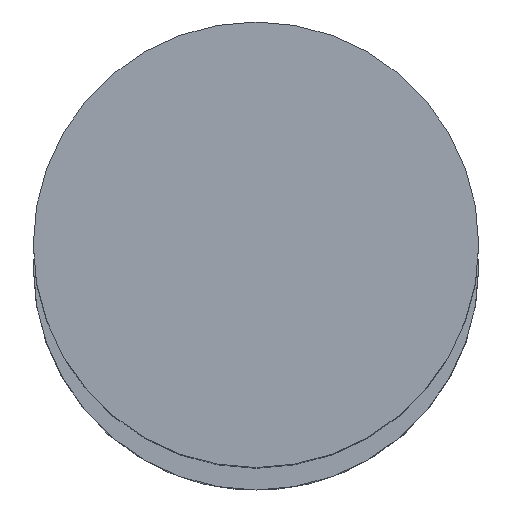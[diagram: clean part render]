
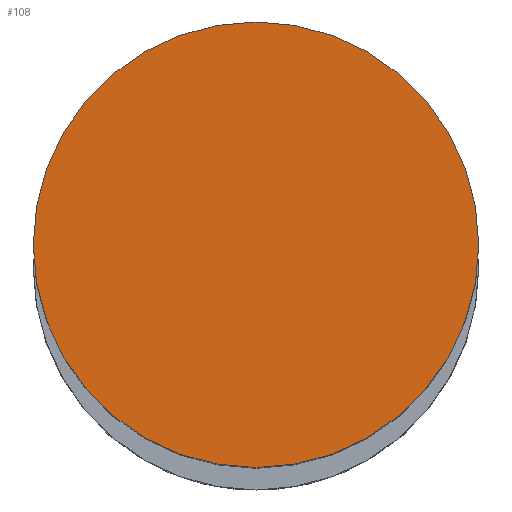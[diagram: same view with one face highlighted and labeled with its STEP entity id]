
A CAD part, top view. The second image highlights one B-rep face of the part: STEP entity #108.
In plain terms, the highlighted planar face has unit normal (0, 0, 1).
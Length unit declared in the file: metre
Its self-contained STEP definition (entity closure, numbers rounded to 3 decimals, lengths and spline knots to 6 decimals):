
#108=ADVANCED_FACE('0:129',(#211),#212,.T.);
#211=FACE_OUTER_BOUND('',#312,.T.);
#212=PLANE('',#313);
#312=EDGE_LOOP('',(#506,#507));
#313=AXIS2_PLACEMENT_3D('',#508,#509,#510);
#506=ORIENTED_EDGE('',*,*,#556,.F.);
#507=ORIENTED_EDGE('',*,*,#609,.F.);
#508=CARTESIAN_POINT('',(0.,0.,0.39));
#509=DIRECTION('',(0.0,0.0,1.0));
#510=DIRECTION('',(1.0,0.0,0.0));
#556=EDGE_CURVE('',#649,#645,#651,.F.);
#609=EDGE_CURVE('',#645,#649,#734,.F.);
#645=VERTEX_POINT('',#782);
#649=VERTEX_POINT('',#787);
#651=CIRCLE('',#790,0.008);
#734=CIRCLE('',#890,0.008);
#782=CARTESIAN_POINT('',(0.00789,0.000133,0.39));
#787=CARTESIAN_POINT('',(-0.00811,0.000133,0.39));
#790=AXIS2_PLACEMENT_3D('',#946,#947,#948);
#890=AXIS2_PLACEMENT_3D('',#1029,#1030,#1031);
#946=CARTESIAN_POINT('',(-0.00011,0.000133,0.39));
#947=DIRECTION('',(0.0,0.0,1.0));
#948=DIRECTION('',(1.0,0.0,0.0));
#1029=CARTESIAN_POINT('',(-0.00011,0.000133,0.39));
#1030=DIRECTION('',(0.0,0.0,1.0));
#1031=DIRECTION('',(1.0,0.0,0.0));
